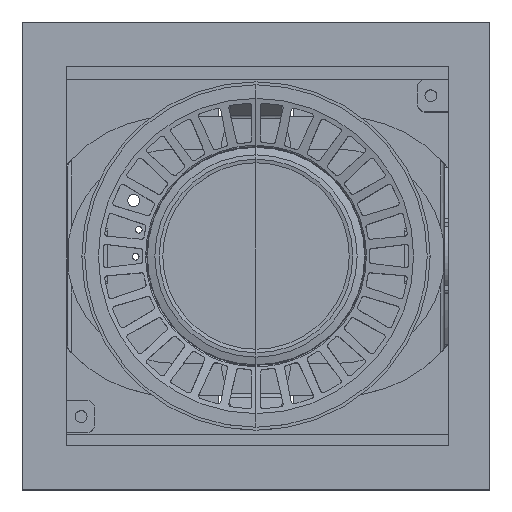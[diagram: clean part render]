
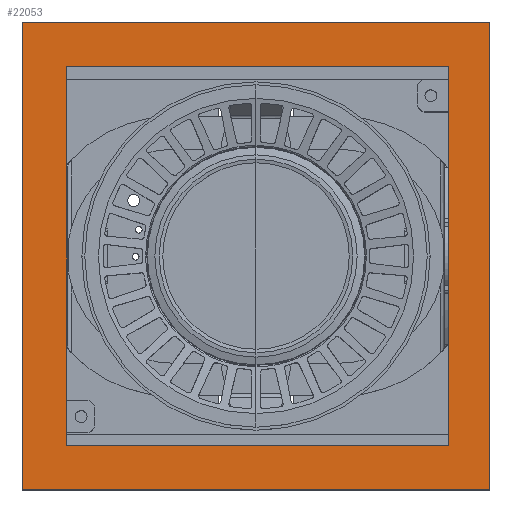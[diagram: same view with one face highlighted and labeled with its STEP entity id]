
A CAD part, top view. The second image highlights one B-rep face of the part: STEP entity #22053.
In plain terms, the highlighted planar face has unit normal (0, 0, 1).
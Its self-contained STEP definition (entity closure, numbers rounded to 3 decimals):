
#150=FACE_BOUND('',#3763,.T.);
#2457=FACE_OUTER_BOUND('',#3762,.T.);
#3762=EDGE_LOOP('',(#18774,#18775,#18776,#18777));
#3763=EDGE_LOOP('',(#18778,#18779,#18780,#18781));
#5156=LINE('',#38629,#6906);
#5160=LINE('',#38637,#6910);
#5163=LINE('',#38643,#6913);
#5166=LINE('',#38648,#6916);
#5168=LINE('',#38653,#6918);
#5172=LINE('',#38661,#6922);
#5175=LINE('',#38667,#6925);
#5178=LINE('',#38672,#6928);
#6906=VECTOR('',#28659,304.8);
#6910=VECTOR('',#28665,304.8);
#6913=VECTOR('',#28670,304.8);
#6916=VECTOR('',#28675,304.8);
#6918=VECTOR('',#28679,304.8);
#6922=VECTOR('',#28685,304.8);
#6925=VECTOR('',#28690,304.8);
#6928=VECTOR('',#28695,304.8);
#10104=VERTEX_POINT('',#38627);
#10105=VERTEX_POINT('',#38628);
#10108=VERTEX_POINT('',#38636);
#10110=VERTEX_POINT('',#38642);
#10112=VERTEX_POINT('',#38651);
#10113=VERTEX_POINT('',#38652);
#10116=VERTEX_POINT('',#38660);
#10118=VERTEX_POINT('',#38666);
#13080=EDGE_CURVE('',#10104,#10105,#5156,.T.);
#13084=EDGE_CURVE('',#10108,#10104,#5160,.T.);
#13087=EDGE_CURVE('',#10110,#10108,#5163,.T.);
#13090=EDGE_CURVE('',#10105,#10110,#5166,.T.);
#13092=EDGE_CURVE('',#10112,#10113,#5168,.T.);
#13096=EDGE_CURVE('',#10116,#10112,#5172,.T.);
#13099=EDGE_CURVE('',#10118,#10116,#5175,.T.);
#13102=EDGE_CURVE('',#10113,#10118,#5178,.T.);
#18774=ORIENTED_EDGE('',*,*,#13102,.T.);
#18775=ORIENTED_EDGE('',*,*,#13099,.T.);
#18776=ORIENTED_EDGE('',*,*,#13096,.T.);
#18777=ORIENTED_EDGE('',*,*,#13092,.T.);
#18778=ORIENTED_EDGE('',*,*,#13090,.T.);
#18779=ORIENTED_EDGE('',*,*,#13087,.T.);
#18780=ORIENTED_EDGE('',*,*,#13084,.T.);
#18781=ORIENTED_EDGE('',*,*,#13080,.T.);
#20922=PLANE('',#24017);
#22053=ADVANCED_FACE('',(#2457,#150),#20922,.T.);
#24017=AXIS2_PLACEMENT_3D('',#38675,#28699,#28700);
#28659=DIRECTION('',(1.,0.,0.));
#28665=DIRECTION('',(0.,1.,0.));
#28670=DIRECTION('',(-1.,0.,0.));
#28675=DIRECTION('',(0.,-1.,0.));
#28679=DIRECTION('',(0.,1.,0.));
#28685=DIRECTION('',(1.,0.,0.));
#28690=DIRECTION('',(0.,-1.,0.));
#28695=DIRECTION('',(-1.,0.,0.));
#28699=DIRECTION('center_axis',(0.,0.,1.));
#28700=DIRECTION('ref_axis',(-1.,0.,0.));
#38627=CARTESIAN_POINT('',(-70.,70.,1.375));
#38628=CARTESIAN_POINT('',(71.255,70.,1.375));
#38629=CARTESIAN_POINT('',(-70.,70.,1.375));
#38636=CARTESIAN_POINT('',(-70.,-70.,1.375));
#38637=CARTESIAN_POINT('',(-70.,-70.,1.375));
#38642=CARTESIAN_POINT('',(71.255,-70.,1.375));
#38643=CARTESIAN_POINT('',(71.255,-70.,1.375));
#38648=CARTESIAN_POINT('',(71.255,70.,1.375));
#38651=CARTESIAN_POINT('',(86.5,-86.5,1.375));
#38652=CARTESIAN_POINT('',(86.5,86.5,1.375));
#38653=CARTESIAN_POINT('',(86.5,-86.5,1.375));
#38660=CARTESIAN_POINT('',(-86.5,-86.5,1.375));
#38661=CARTESIAN_POINT('',(-86.5,-86.5,1.375));
#38666=CARTESIAN_POINT('',(-86.5,86.5,1.375));
#38667=CARTESIAN_POINT('',(-86.5,86.5,1.375));
#38672=CARTESIAN_POINT('',(86.5,86.5,1.375));
#38675=CARTESIAN_POINT('Origin',(-86.5,86.5,1.375));
